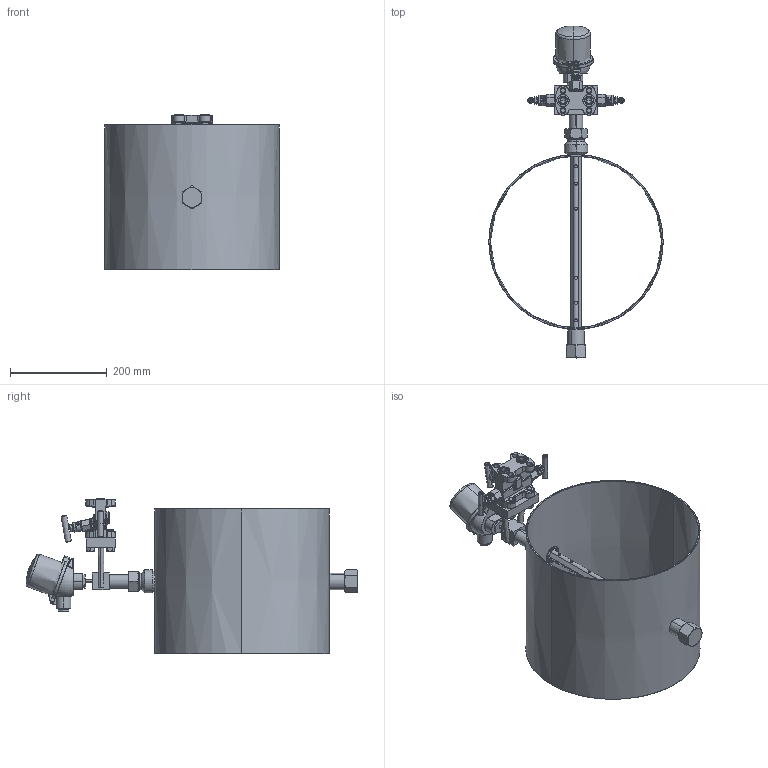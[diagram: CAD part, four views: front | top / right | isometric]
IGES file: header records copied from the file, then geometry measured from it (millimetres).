
Start section: SolidWorks IGES file using analytic representation for surfaces
Global section: file name: Q:\QS\QSA\ZG (Zeichnungen mit Solid Works)\Formblätter\Standard Formblätter\SDF-M-22\FB-SDF-M-22-ID-WS+H-SC-FPK-DE-T-V-001-00.IGS; native system: SolidWorks 2010; preprocessor: SolidWorks 2010; author: User12; date: 121204.151854; units: millimetre
Bounding box: 361 x 687.64 x 322.4 mm (x, y, z)
Surface area: 962289.9 mm2 (no closed solid volume)
Topology: 0 solids, 0 shells, 2010 faces, 25443 edges, 25357 vertices
Faces by surface type: bspline 1105, revolution 905
